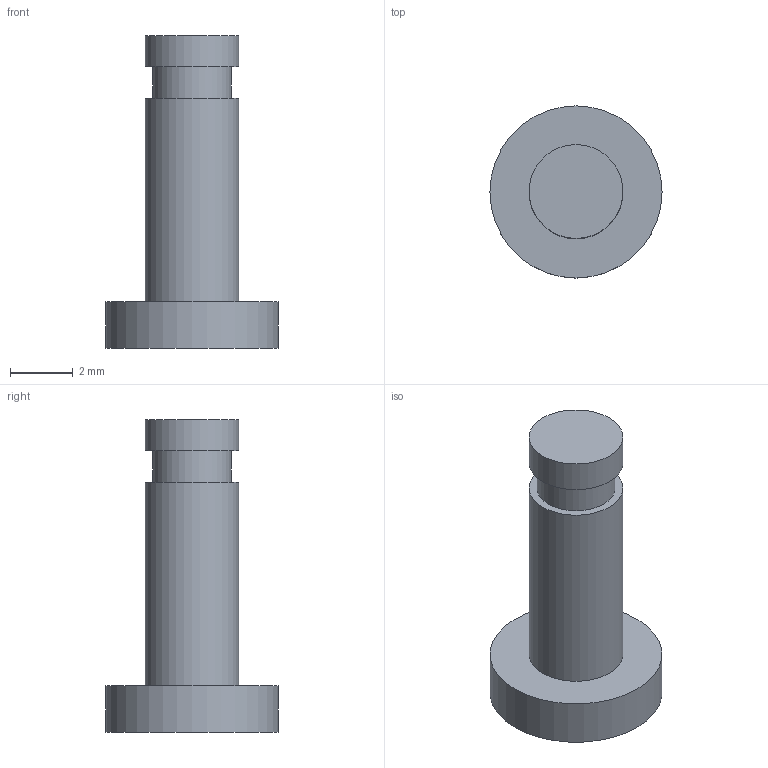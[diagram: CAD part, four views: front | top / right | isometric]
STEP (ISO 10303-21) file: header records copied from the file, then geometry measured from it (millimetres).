
FILE_DESCRIPTION(('Open CASCADE Model'),'2;1');
FILE_NAME('F08-PIN3-L10','2026-11-15T22:32:30',('Author'),( 'Open CASCADE'),'Open CASCADE STEP processor 8.0','build123d', 'Unknown');
FILE_SCHEMA(('AUTOMOTIVE_DESIGN { 1 0 10303 214 1 1 1 1 }'));
Length unit declared in the file: millimetre
Products named in the file (1): F08-PIN3-L10
Bounding box: 5.5 x 5.5 x 10 mm (x, y, z)
Volume: 93.6 mm3; surface area: 156.3 mm2
Topology: 1 solids, 1 shells, 9 faces, 12 edges, 8 vertices
Faces by surface type: plane 5, cylinder 4
Full cylindrical faces by diameter (mm): 2.5 x1, 3 x2, 5.5 x1
Entity records: 360 total; most frequent: DIRECTION 64, CARTESIAN_POINT 54, ORIENTED_EDGE 24, PCURVE 24, DEFINITIONAL_REPRESENTATION 24, LINE 20, VECTOR 20, AXIS2_PLACEMENT_3D 18
